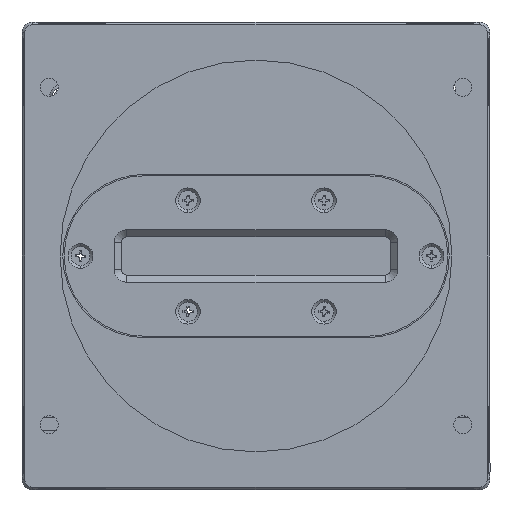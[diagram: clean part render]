
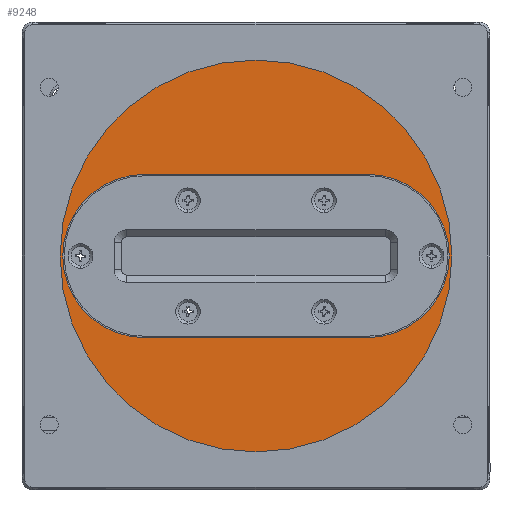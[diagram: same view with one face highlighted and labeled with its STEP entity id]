
A CAD part, front view. The second image highlights one B-rep face of the part: STEP entity #9248.
In plain terms, the highlighted planar face has unit normal (0, -1, 0).
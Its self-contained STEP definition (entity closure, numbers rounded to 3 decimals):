
#679 = CARTESIAN_POINT ( 'NONE',  ( -77.443, 32.185, 97.712 ) ) ;
#1300 = FACE_OUTER_BOUND ( 'NONE', #47925, .T. ) ;
#2215 = ORIENTED_EDGE ( 'NONE', *, *, #44703, .F. ) ;
#3193 = CARTESIAN_POINT ( 'NONE',  ( -97.943, 32.185, 60.712 ) ) ;
#5802 = DIRECTION ( 'NONE',  ( 0., 0., -1. ) ) ;
#7876 = DIRECTION ( 'NONE',  ( 0., -1., 0. ) ) ;
#8508 = EDGE_CURVE ( 'NONE', #45032, #46740, #17111, .T. ) ;
#8670 = ORIENTED_EDGE ( 'NONE', *, *, #24624, .T. ) ;
#8939 = CARTESIAN_POINT ( 'NONE',  ( -77.443, 32.185, 82.712 ) ) ;
#9248 = ADVANCED_FACE ( 'NONE', ( #38237, #1300 ), #46847, .T. ) ;
#10381 = CARTESIAN_POINT ( 'NONE',  ( -118.443, 32.185, 112.712 ) ) ;
#11726 = AXIS2_PLACEMENT_3D ( 'NONE', #24540, #16955, #39827 ) ;
#12443 = CARTESIAN_POINT ( 'NONE',  ( -97.943, 32.185, 97.712 ) ) ;
#12899 = CARTESIAN_POINT ( 'NONE',  ( -77.443, 32.185, 112.712 ) ) ;
#13440 = AXIS2_PLACEMENT_3D ( 'NONE', #12443, #7876, #19902 ) ;
#14062 = VERTEX_POINT ( 'NONE', #45463 ) ;
#15513 = ORIENTED_EDGE ( 'NONE', *, *, #36393, .F. ) ;
#16955 = DIRECTION ( 'NONE',  ( 0., -1., 0. ) ) ;
#17111 = LINE ( 'NONE', #12899, #46811 ) ;
#17309 = DIRECTION ( 'NONE',  ( 0., -1., 0. ) ) ;
#18167 = CIRCLE ( 'NONE', #26899, 37. ) ;
#18754 = ORIENTED_EDGE ( 'NONE', *, *, #41823, .T. ) ;
#19902 = DIRECTION ( 'NONE',  ( 0., 0., -1. ) ) ;
#19981 = DIRECTION ( 'NONE',  ( 0., 0., -1. ) ) ;
#20538 = CIRCLE ( 'NONE', #11726, 15. ) ;
#20659 = VECTOR ( 'NONE', #27845, 1000. ) ;
#22332 = EDGE_CURVE ( 'NONE', #23916, #36764, #38790, .T. ) ;
#23406 = CIRCLE ( 'NONE', #33274, 37. ) ;
#23564 = EDGE_LOOP ( 'NONE', ( #15513, #42654, #2215, #46200 ) ) ;
#23916 = VERTEX_POINT ( 'NONE', #31788 ) ;
#23918 = CIRCLE ( 'NONE', #24490, 15. ) ;
#24490 = AXIS2_PLACEMENT_3D ( 'NONE', #679, #43166, #19981 ) ;
#24540 = CARTESIAN_POINT ( 'NONE',  ( -118.443, 32.185, 97.712 ) ) ;
#24624 = EDGE_CURVE ( 'NONE', #39789, #14062, #23406, .T. ) ;
#25529 = CARTESIAN_POINT ( 'NONE',  ( -77.443, 32.185, 112.712 ) ) ;
#26899 = AXIS2_PLACEMENT_3D ( 'NONE', #48947, #37201, #44663 ) ;
#27845 = DIRECTION ( 'NONE',  ( 1., 0., 0. ) ) ;
#31788 = CARTESIAN_POINT ( 'NONE',  ( -118.443, 32.185, 82.712 ) ) ;
#33274 = AXIS2_PLACEMENT_3D ( 'NONE', #48180, #17309, #5802 ) ;
#36393 = EDGE_CURVE ( 'NONE', #36764, #45032, #23918, .T. ) ;
#36764 = VERTEX_POINT ( 'NONE', #42789 ) ;
#37201 = DIRECTION ( 'NONE',  ( 0., -1., 0. ) ) ;
#38237 = FACE_BOUND ( 'NONE', #23564, .T. ) ;
#38790 = LINE ( 'NONE', #8939, #20659 ) ;
#39789 = VERTEX_POINT ( 'NONE', #3193 ) ;
#39827 = DIRECTION ( 'NONE',  ( 0., 0., -1. ) ) ;
#41823 = EDGE_CURVE ( 'NONE', #14062, #39789, #18167, .T. ) ;
#42654 = ORIENTED_EDGE ( 'NONE', *, *, #22332, .F. ) ;
#42789 = CARTESIAN_POINT ( 'NONE',  ( -77.443, 32.185, 82.712 ) ) ;
#43166 = DIRECTION ( 'NONE',  ( 0., -1., 0. ) ) ;
#44663 = DIRECTION ( 'NONE',  ( 0., 0., -1. ) ) ;
#44703 = EDGE_CURVE ( 'NONE', #46740, #23916, #20538, .T. ) ;
#45032 = VERTEX_POINT ( 'NONE', #25529 ) ;
#45463 = CARTESIAN_POINT ( 'NONE',  ( -97.943, 32.185, 134.712 ) ) ;
#46200 = ORIENTED_EDGE ( 'NONE', *, *, #8508, .F. ) ;
#46740 = VERTEX_POINT ( 'NONE', #10381 ) ;
#46811 = VECTOR ( 'NONE', #48329, 1000. ) ;
#46847 = PLANE ( 'NONE',  #13440 ) ;
#47925 = EDGE_LOOP ( 'NONE', ( #18754, #8670 ) ) ;
#48180 = CARTESIAN_POINT ( 'NONE',  ( -97.943, 32.185, 97.712 ) ) ;
#48329 = DIRECTION ( 'NONE',  ( -1., 0., 0. ) ) ;
#48947 = CARTESIAN_POINT ( 'NONE',  ( -97.943, 32.185, 97.712 ) ) ;
